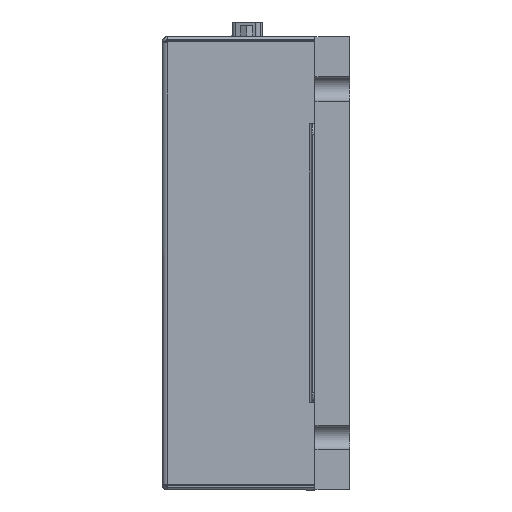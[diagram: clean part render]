
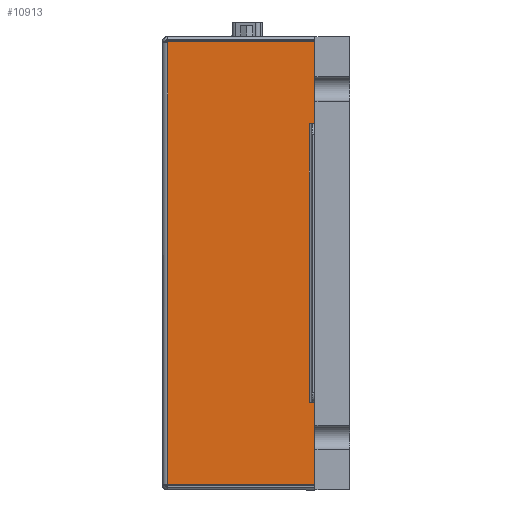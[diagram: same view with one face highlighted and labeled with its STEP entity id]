
A CAD part, left-side view. The second image highlights one B-rep face of the part: STEP entity #10913.
In plain terms, the highlighted planar face has unit normal (-1, 0, 0).
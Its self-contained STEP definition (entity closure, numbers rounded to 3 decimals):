
#155 = EDGE_CURVE ( 'NONE', #14899, #5354, #22298, .T. ) ;
#405 = DIRECTION ( 'NONE',  ( 0., 0., -1. ) ) ;
#688 = VECTOR ( 'NONE', #13006, 1000. ) ;
#2034 = LINE ( 'NONE', #20547, #3083 ) ;
#2968 = CARTESIAN_POINT ( 'NONE',  ( -0.8, -43.8, -24.2 ) ) ;
#3083 = VECTOR ( 'NONE', #7208, 1000. ) ;
#3084 = VECTOR ( 'NONE', #20641, 1000. ) ;
#3179 = VERTEX_POINT ( 'NONE', #20818 ) ;
#3194 = PLANE ( 'NONE',  #12245 ) ;
#3253 = ORIENTED_EDGE ( 'NONE', *, *, #21302, .T. ) ;
#3270 = VERTEX_POINT ( 'NONE', #3468 ) ;
#3468 = CARTESIAN_POINT ( 'NONE',  ( -0.8, -42.2, -24.2 ) ) ;
#3618 = LINE ( 'NONE', #20471, #25984 ) ;
#5354 = VERTEX_POINT ( 'NONE', #22347 ) ;
#5891 = EDGE_CURVE ( 'NONE', #23876, #14332, #3618, .T. ) ;
#5930 = LINE ( 'NONE', #15073, #24101 ) ;
#6857 = ORIENTED_EDGE ( 'NONE', *, *, #22662, .F. ) ;
#7208 = DIRECTION ( 'NONE',  ( 0., -1., 0. ) ) ;
#7882 = EDGE_CURVE ( 'NONE', #18028, #15583, #2034, .T. ) ;
#8355 = ORIENTED_EDGE ( 'NONE', *, *, #5891, .F. ) ;
#8658 = CARTESIAN_POINT ( 'NONE',  ( -0.8, -43.8, -128.4 ) ) ;
#9912 = ORIENTED_EDGE ( 'NONE', *, *, #18599, .F. ) ;
#10108 = CARTESIAN_POINT ( 'NONE',  ( -0.8, -43.8, -24.2 ) ) ;
#10572 = DIRECTION ( 'NONE',  ( 0., 0., -1. ) ) ;
#10622 = ORIENTED_EDGE ( 'NONE', *, *, #12355, .F. ) ;
#10913 = ADVANCED_FACE ( 'NONE', ( #11278 ), #3194, .T. ) ;
#11278 = FACE_OUTER_BOUND ( 'NONE', #17772, .T. ) ;
#11355 = VERTEX_POINT ( 'NONE', #24460 ) ;
#11629 = CARTESIAN_POINT ( 'NONE',  ( -0.8, -43.8, -104.2 ) ) ;
#11846 = LINE ( 'NONE', #28906, #15014 ) ;
#11947 = DIRECTION ( 'NONE',  ( 0., 0., -1. ) ) ;
#12125 = DIRECTION ( 'NONE',  ( -1., 0., 0. ) ) ;
#12245 = AXIS2_PLACEMENT_3D ( 'NONE', #27735, #12125, #18540 ) ;
#12355 = EDGE_CURVE ( 'NONE', #3179, #5354, #11846, .T. ) ;
#12624 = LINE ( 'NONE', #28994, #688 ) ;
#13006 = DIRECTION ( 'NONE',  ( 0., 1., 0. ) ) ;
#13198 = DIRECTION ( 'NONE',  ( 0., 1., 0. ) ) ;
#13584 = VERTEX_POINT ( 'NONE', #13999 ) ;
#13715 = LINE ( 'NONE', #23926, #25216 ) ;
#13776 = ORIENTED_EDGE ( 'NONE', *, *, #18241, .F. ) ;
#13894 = VECTOR ( 'NONE', #20897, 1000. ) ;
#13999 = CARTESIAN_POINT ( 'NONE',  ( -0.8, -42.2, -104.2 ) ) ;
#14332 = VERTEX_POINT ( 'NONE', #10108 ) ;
#14777 = DIRECTION ( 'NONE',  ( 0., -1., 0. ) ) ;
#14899 = VERTEX_POINT ( 'NONE', #27768 ) ;
#15014 = VECTOR ( 'NONE', #13198, 1000. ) ;
#15073 = CARTESIAN_POINT ( 'NONE',  ( -0.8, -42.2, -104.2 ) ) ;
#15381 = LINE ( 'NONE', #18348, #3084 ) ;
#15583 = VERTEX_POINT ( 'NONE', #11629 ) ;
#16996 = EDGE_CURVE ( 'NONE', #3270, #13584, #13715, .T. ) ;
#17060 = VECTOR ( 'NONE', #11947, 1000. ) ;
#17772 = EDGE_LOOP ( 'NONE', ( #24948, #6857, #9912, #8355, #3253, #23996, #10622, #13776, #22671, #25360 ) ) ;
#18028 = VERTEX_POINT ( 'NONE', #20629 ) ;
#18241 = EDGE_CURVE ( 'NONE', #15583, #3179, #19133, .T. ) ;
#18348 = CARTESIAN_POINT ( 'NONE',  ( -0.8, -43.8, -24.2 ) ) ;
#18540 = DIRECTION ( 'NONE',  ( 0., -1., 0. ) ) ;
#18599 = EDGE_CURVE ( 'NONE', #14332, #11355, #25749, .T. ) ;
#19133 = LINE ( 'NONE', #8658, #21934 ) ;
#19162 = CARTESIAN_POINT ( 'NONE',  ( -0.8, -43.8, -0.707 ) ) ;
#20471 = CARTESIAN_POINT ( 'NONE',  ( -0.8, -43.8, -128.4 ) ) ;
#20547 = CARTESIAN_POINT ( 'NONE',  ( -0.8, -42.2, -104.2 ) ) ;
#20629 = CARTESIAN_POINT ( 'NONE',  ( -0.8, -43.586, -104.2 ) ) ;
#20641 = DIRECTION ( 'NONE',  ( 0., 1., 0. ) ) ;
#20818 = CARTESIAN_POINT ( 'NONE',  ( -0.8, -43.8, -127.693 ) ) ;
#20897 = DIRECTION ( 'NONE',  ( 0., 1., 0. ) ) ;
#21179 = EDGE_CURVE ( 'NONE', #13584, #18028, #5930, .T. ) ;
#21302 = EDGE_CURVE ( 'NONE', #23876, #14899, #12624, .T. ) ;
#21934 = VECTOR ( 'NONE', #21957, 1000. ) ;
#21957 = DIRECTION ( 'NONE',  ( 0., 0., -1. ) ) ;
#22298 = LINE ( 'NONE', #27165, #17060 ) ;
#22347 = CARTESIAN_POINT ( 'NONE',  ( -0.8, -1.6, -127.693 ) ) ;
#22662 = EDGE_CURVE ( 'NONE', #11355, #3270, #15381, .T. ) ;
#22671 = ORIENTED_EDGE ( 'NONE', *, *, #7882, .F. ) ;
#23876 = VERTEX_POINT ( 'NONE', #19162 ) ;
#23926 = CARTESIAN_POINT ( 'NONE',  ( -0.8, -42.2, -24.2 ) ) ;
#23996 = ORIENTED_EDGE ( 'NONE', *, *, #155, .T. ) ;
#24101 = VECTOR ( 'NONE', #14777, 1000. ) ;
#24460 = CARTESIAN_POINT ( 'NONE',  ( -0.8, -43.586, -24.2 ) ) ;
#24948 = ORIENTED_EDGE ( 'NONE', *, *, #16996, .F. ) ;
#25216 = VECTOR ( 'NONE', #10572, 1000. ) ;
#25360 = ORIENTED_EDGE ( 'NONE', *, *, #21179, .F. ) ;
#25749 = LINE ( 'NONE', #2968, #13894 ) ;
#25984 = VECTOR ( 'NONE', #405, 1000. ) ;
#27165 = CARTESIAN_POINT ( 'NONE',  ( -0.8, -1.6, 0. ) ) ;
#27735 = CARTESIAN_POINT ( 'NONE',  ( -0.8, 0., 0. ) ) ;
#27768 = CARTESIAN_POINT ( 'NONE',  ( -0.8, -1.6, -0.707 ) ) ;
#28906 = CARTESIAN_POINT ( 'NONE',  ( -0.8, 0., -127.693 ) ) ;
#28994 = CARTESIAN_POINT ( 'NONE',  ( -0.8, 0., -0.707 ) ) ;
